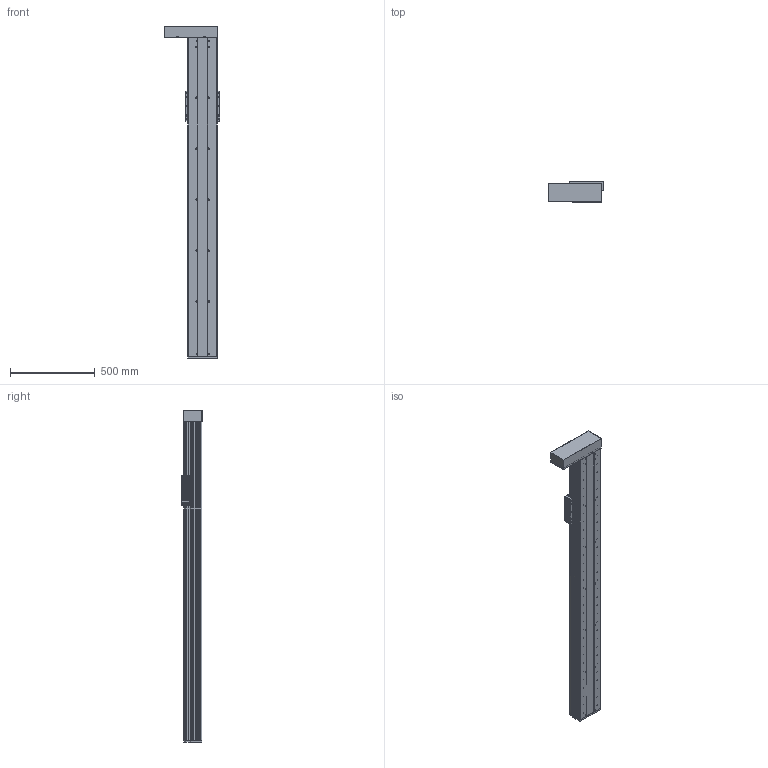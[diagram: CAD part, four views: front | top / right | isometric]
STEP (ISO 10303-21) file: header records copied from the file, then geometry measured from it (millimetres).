
FILE_DESCRIPTION (( 'STEP AP214' ), '1' );
FILE_NAME ('CF175B-C-1600-FWL.STEP', '2020-01-02T01:11:09', ( '微软用户' ), ( '微软中国' ), 'SwSTEP 2.0', 'SolidWorks 2016', '' );
FILE_SCHEMA (( 'AUTOMOTIVE_DESIGN' ));
Length unit declared in the file: millimetre
Products named in the file (12): 175-2耜啣; CF-EGH20CA賑輸; CF175B-C-1600-FWL; 肮祭謫欶; 175B殏俔萇儂啣; 175-2同步带从动端固定座; CF175-2賑雄啣; EGR20絳寢-1600; 175B臏倰第-1600; CF175B-1600; CF175-2蹟譫釱; 175-2盓傅釱
Assembly tree (15 placements, depth 2):
  CF175B-C-1600-FWL
    CF-EGH20CA賑輸  x4
    175-2耜啣
    175-2盓傅釱
    CF175-2蹟譫釱
    CF175B-1600
    175B臏倰第-1600
    EGR20絳寢-1600  x2
    CF175-2賑雄啣
    175-2同步带从动端固定座
    175B殏俔萇儂啣
    肮祭謫欶
Bounding box: 324.5 x 118.3 x 1955 mm (x, y, z)
Volume: 12552501.3 mm3; surface area: 3791981.4 mm2
Topology: 21 solids, 21 shells, 1649 faces, 4208 edges, 2789 vertices
Faces by surface type: cylinder 900, plane 739, cone 8, bspline 2
Entity records: 40693 total; most frequent: DIRECTION 7040, CARTESIAN_POINT 6696, ORIENTED_EDGE 6294, EDGE_CURVE 3147, AXIS2_PLACEMENT_3D 2673, VERTEX_POINT 2089, LINE 1694, VECTOR 1694
